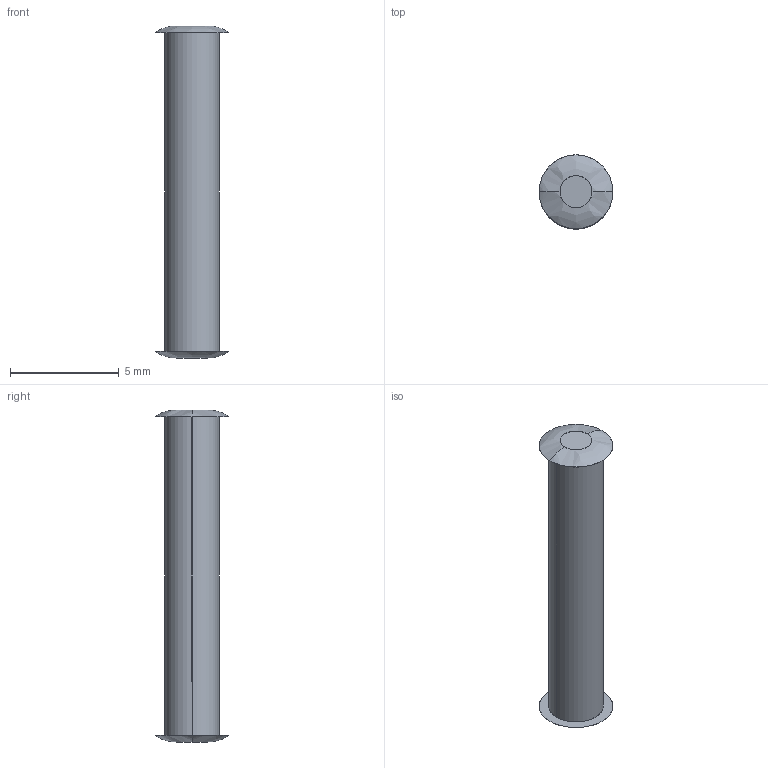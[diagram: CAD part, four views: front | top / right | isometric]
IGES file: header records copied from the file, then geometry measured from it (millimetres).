
Start section: SolidWorks IGES FILE using analytic representation for surfaces
Global section: file name: C:\Documents and Settings\lecoutey\Bureau\GP 2075\2075.100.00.IGS; native system: SolidWorks 2004 by SolidWorks Corporation; preprocessor: Version 5.3; author: lecoutey; date: 050329.161305; units: millimetre
Bounding box: 3.4 x 3.4 x 15.3 mm (x, y, z)
Surface area: 143.1 mm2 (no closed solid volume)
Topology: 0 solids, 0 shells, 10 faces, 184 edges, 184 vertices
Faces by surface type: bspline 8, revolution 2
